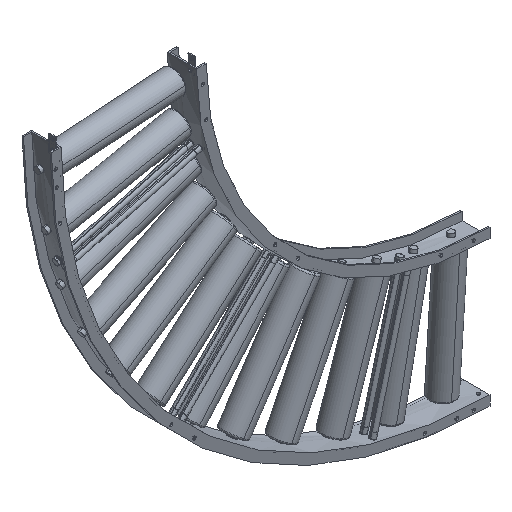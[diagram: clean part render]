
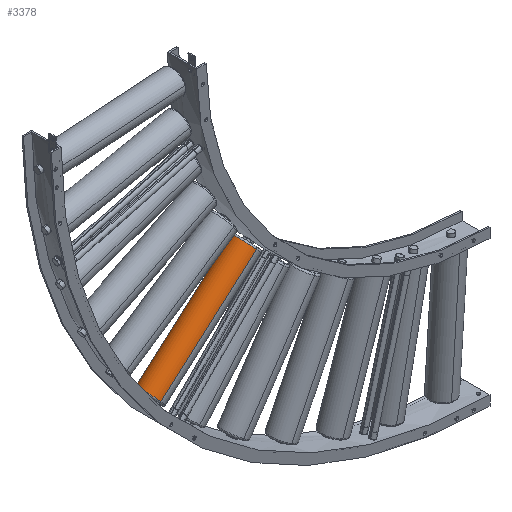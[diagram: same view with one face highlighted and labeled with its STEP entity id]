
A CAD part, isometric view. The second image highlights one B-rep face of the part: STEP entity #3378.
In plain terms, the highlighted cylindrical face has radius 38.15 mm (diameter 76.3 mm), a partial arc.
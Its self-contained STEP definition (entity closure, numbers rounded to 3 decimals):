
#2108 = CARTESIAN_POINT ( 'NONE',  ( -359.661, -0.102, -402.778 ) ) ;
#3161 = CIRCLE ( 'NONE', #9428, 38.15 ) ;
#3200 = DIRECTION ( 'NONE',  ( -0.752, 0., -0.659 ) ) ;
#3378 = ADVANCED_FACE ( 'NONE', ( #13049 ), #6175, .T. ) ;
#3758 = ORIENTED_EDGE ( 'NONE', *, *, #5661, .T. ) ;
#4093 = CARTESIAN_POINT ( 'NONE',  ( -61.164, 37.199, -151.653 ) ) ;
#4912 = VERTEX_POINT ( 'NONE', #2108 ) ;
#5320 = VECTOR ( 'NONE', #7859, 1000. ) ;
#5661 = EDGE_CURVE ( 'NONE', #21134, #13977, #5847, .T. ) ;
#5847 = LINE ( 'NONE', #13827, #21550 ) ;
#6175 = CYLINDRICAL_SURFACE ( 'NONE', #27017, 38.15 ) ;
#6324 = CARTESIAN_POINT ( 'NONE',  ( -57.405, 37.199, -148.356 ) ) ;
#7010 = EDGE_CURVE ( 'NONE', #13977, #4912, #20945, .T. ) ;
#7296 = CARTESIAN_POINT ( 'NONE',  ( -62.684, -0.102, -142.336 ) ) ;
#7859 = DIRECTION ( 'NONE',  ( -0.752, 0., -0.659 ) ) ;
#8860 = AXIS2_PLACEMENT_3D ( 'NONE', #12703, #21537, #11023 ) ;
#9428 = AXIS2_PLACEMENT_3D ( 'NONE', #4093, #23538, #17233 ) ;
#9701 = VERTEX_POINT ( 'NONE', #24709 ) ;
#11023 = DIRECTION ( 'NONE',  ( 0.138, 0.978, -0.158 ) ) ;
#11937 = ORIENTED_EDGE ( 'NONE', *, *, #19811, .T. ) ;
#12524 = CARTESIAN_POINT ( 'NONE',  ( -349.102, 74.499, -414.818 ) ) ;
#12703 = CARTESIAN_POINT ( 'NONE',  ( -354.381, 37.199, -408.798 ) ) ;
#12968 = ORIENTED_EDGE ( 'NONE', *, *, #18310, .F. ) ;
#13049 = FACE_OUTER_BOUND ( 'NONE', #21870, .T. ) ;
#13827 = CARTESIAN_POINT ( 'NONE',  ( -52.125, 74.499, -154.376 ) ) ;
#13977 = VERTEX_POINT ( 'NONE', #12524 ) ;
#17233 = DIRECTION ( 'NONE',  ( 0.138, 0.978, -0.158 ) ) ;
#18310 = EDGE_CURVE ( 'NONE', #9701, #4912, #22439, .T. ) ;
#19811 = EDGE_CURVE ( 'NONE', #9701, #21134, #3161, .T. ) ;
#20945 = CIRCLE ( 'NONE', #8860, 38.15 ) ;
#21105 = CARTESIAN_POINT ( 'NONE',  ( -55.885, 74.499, -157.673 ) ) ;
#21134 = VERTEX_POINT ( 'NONE', #21105 ) ;
#21537 = DIRECTION ( 'NONE',  ( 0.752, 0., 0.659 ) ) ;
#21550 = VECTOR ( 'NONE', #3200, 1000. ) ;
#21870 = EDGE_LOOP ( 'NONE', ( #11937, #3758, #22553, #12968 ) ) ;
#22439 = LINE ( 'NONE', #7296, #5320 ) ;
#22553 = ORIENTED_EDGE ( 'NONE', *, *, #7010, .T. ) ;
#23538 = DIRECTION ( 'NONE',  ( -0.752, 0., -0.659 ) ) ;
#23544 = DIRECTION ( 'NONE',  ( -0.138, -0.978, 0.158 ) ) ;
#24709 = CARTESIAN_POINT ( 'NONE',  ( -66.443, -0.102, -145.633 ) ) ;
#25917 = DIRECTION ( 'NONE',  ( -0.752, 0., -0.659 ) ) ;
#27017 = AXIS2_PLACEMENT_3D ( 'NONE', #6324, #25917, #23544 ) ;
